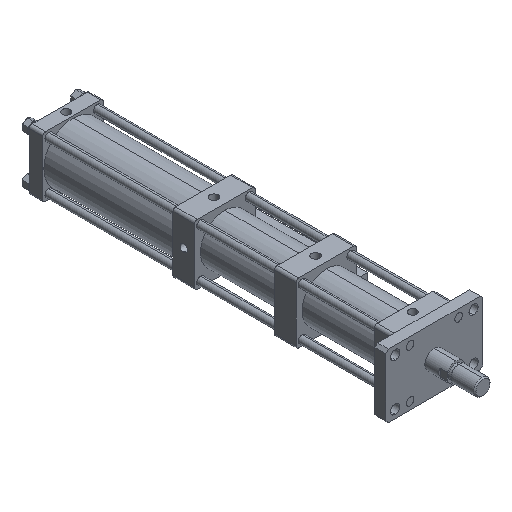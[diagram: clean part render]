
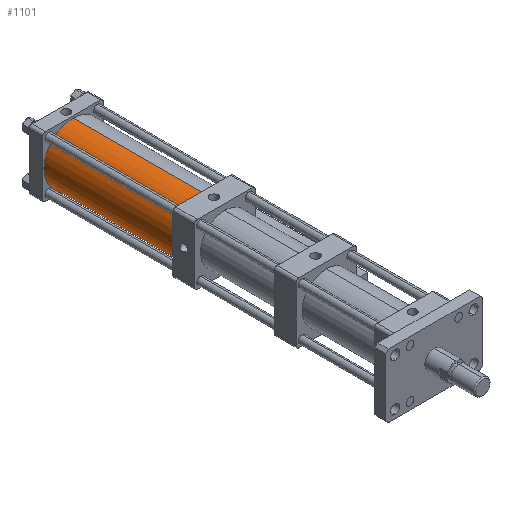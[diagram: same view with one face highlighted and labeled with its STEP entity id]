
A CAD part, isometric view. The second image highlights one B-rep face of the part: STEP entity #1101.
In plain terms, the highlighted cylindrical face has radius 54 mm (diameter 108 mm), a partial arc.
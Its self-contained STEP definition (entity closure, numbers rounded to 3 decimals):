
#93 = LINE ( 'NONE', #6086, #4779 ) ;
#559 = DIRECTION ( 'NONE',  ( 0., -1., 0. ) ) ;
#622 = AXIS2_PLACEMENT_3D ( 'NONE', #1525, #5806, #2123 ) ;
#765 = VERTEX_POINT ( 'NONE', #1655 ) ;
#847 = AXIS2_PLACEMENT_3D ( 'NONE', #6787, #3102, #7402 ) ;
#1051 = VERTEX_POINT ( 'NONE', #4041 ) ;
#1101 = ADVANCED_FACE ( 'NONE', ( #3985 ), #3799, .T. ) ;
#1149 = CIRCLE ( 'NONE', #847, 54. ) ;
#1525 = CARTESIAN_POINT ( 'NONE',  ( 0., 428.002, -1.638 ) ) ;
#1655 = CARTESIAN_POINT ( 'NONE',  ( 0., 428.002, 52.362 ) ) ;
#1779 = EDGE_CURVE ( 'NONE', #3872, #4515, #5564, .T. ) ;
#1992 = CARTESIAN_POINT ( 'NONE',  ( 0., 669.002, -55.638 ) ) ;
#2123 = DIRECTION ( 'NONE',  ( 0., 0., 1. ) ) ;
#2240 = EDGE_CURVE ( 'NONE', #4515, #765, #4691, .T. ) ;
#2534 = ORIENTED_EDGE ( 'NONE', *, *, #2240, .T. ) ;
#3032 = AXIS2_PLACEMENT_3D ( 'NONE', #7170, #3541, #7842 ) ;
#3102 = DIRECTION ( 'NONE',  ( 0., 1., 0. ) ) ;
#3147 = ORIENTED_EDGE ( 'NONE', *, *, #1779, .T. ) ;
#3213 = ORIENTED_EDGE ( 'NONE', *, *, #6115, .F. ) ;
#3541 = DIRECTION ( 'NONE',  ( 0., -1., 0. ) ) ;
#3799 = CYLINDRICAL_SURFACE ( 'NONE', #3032, 54. ) ;
#3872 = VERTEX_POINT ( 'NONE', #4648 ) ;
#3985 = FACE_OUTER_BOUND ( 'NONE', #7403, .T. ) ;
#4041 = CARTESIAN_POINT ( 'NONE',  ( 0., 669.002, 52.362 ) ) ;
#4515 = VERTEX_POINT ( 'NONE', #5676 ) ;
#4648 = CARTESIAN_POINT ( 'NONE',  ( 0., 669.002, -55.638 ) ) ;
#4691 = CIRCLE ( 'NONE', #622, 54. ) ;
#4779 = VECTOR ( 'NONE', #559, 1000. ) ;
#4882 = ORIENTED_EDGE ( 'NONE', *, *, #6993, .F. ) ;
#5564 = LINE ( 'NONE', #1992, #5753 ) ;
#5676 = CARTESIAN_POINT ( 'NONE',  ( 0., 428.002, -55.638 ) ) ;
#5753 = VECTOR ( 'NONE', #6308, 1000. ) ;
#5806 = DIRECTION ( 'NONE',  ( 0., 1., 0. ) ) ;
#6086 = CARTESIAN_POINT ( 'NONE',  ( 0., 669.002, 52.362 ) ) ;
#6115 = EDGE_CURVE ( 'NONE', #1051, #765, #93, .T. ) ;
#6308 = DIRECTION ( 'NONE',  ( 0., -1., 0. ) ) ;
#6787 = CARTESIAN_POINT ( 'NONE',  ( 0., 669.002, -1.638 ) ) ;
#6993 = EDGE_CURVE ( 'NONE', #3872, #1051, #1149, .T. ) ;
#7170 = CARTESIAN_POINT ( 'NONE',  ( 0., 669.002, -1.638 ) ) ;
#7402 = DIRECTION ( 'NONE',  ( 0., 0., 1. ) ) ;
#7403 = EDGE_LOOP ( 'NONE', ( #3213, #4882, #3147, #2534 ) ) ;
#7842 = DIRECTION ( 'NONE',  ( 0., 0., -1. ) ) ;
